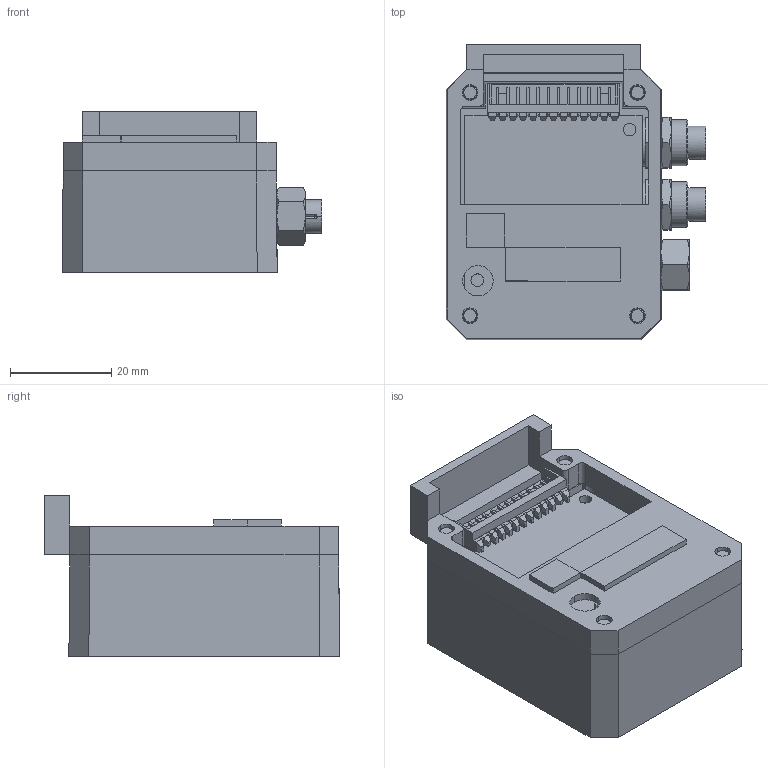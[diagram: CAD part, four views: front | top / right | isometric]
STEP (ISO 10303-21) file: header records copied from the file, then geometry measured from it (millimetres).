
FILE_DESCRIPTION (( 'STEP AP214' ), '1' );
FILE_NAME ('RBST3Interface-rev1.STEP', '2019-05-17T20:32:57', ( '' ), ( '' ), 'SwSTEP 2.0', 'SolidWorks 2019', '' );
FILE_SCHEMA (( 'AUTOMOTIVE_DESIGN' ));
Length unit declared in the file: millimetre
Products named in the file (1): RBST3Interface-rev1
Bounding box: 51.14 x 58.19 x 31.7 mm (x, y, z)
Volume: 22003.8 mm3; surface area: 26785.4 mm2
Topology: 13 solids, 13 shells, 1665 faces, 4209 edges, 2656 vertices
Faces by surface type: plane 1248, cylinder 286, cone 111, bspline 16, sphere 4
Entity records: 68062 total; most frequent: CARTESIAN_POINT 9557, ORIENTED_EDGE 8362, DIRECTION 7997, EDGE_CURVE 4181, LINE 3397, VECTOR 3397, VERTEX_POINT 2654, AXIS2_PLACEMENT_3D 2300
